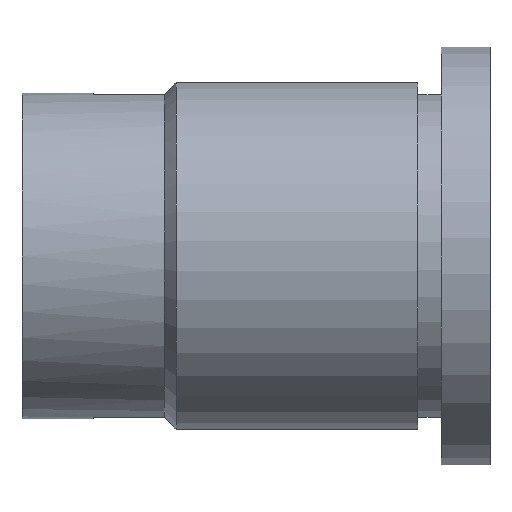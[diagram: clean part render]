
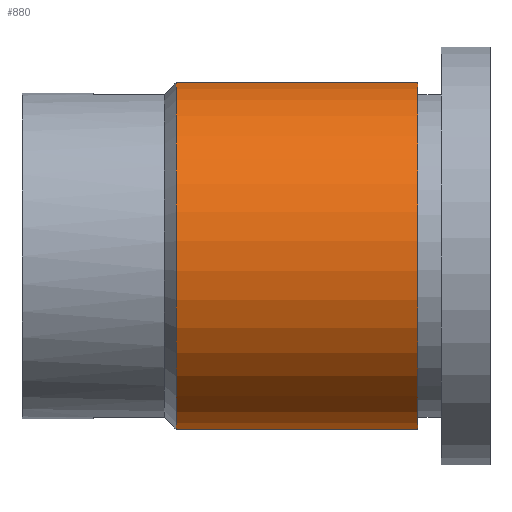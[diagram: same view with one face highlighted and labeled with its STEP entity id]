
A CAD part, front view. The second image highlights one B-rep face of the part: STEP entity #880.
In plain terms, the highlighted cylindrical face has radius 2.95 mm (diameter 5.9 mm), a partial arc.
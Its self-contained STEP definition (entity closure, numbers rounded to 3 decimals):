
#1 = ORIENTED_EDGE ( 'NONE', *, *, #352, .F. ) ;
#2 = DIRECTION ( 'NONE',  ( -1., 0., 0. ) ) ;
#46 = DIRECTION ( 'NONE',  ( 0., 0., 1. ) ) ;
#52 = AXIS2_PLACEMENT_3D ( 'NONE', #724, #317, #890 ) ;
#123 = AXIS2_PLACEMENT_3D ( 'NONE', #950, #535, #46 ) ;
#170 = DIRECTION ( 'NONE',  ( 1., 0., 0. ) ) ;
#259 = FACE_OUTER_BOUND ( 'NONE', #981, .T. ) ;
#268 = DIRECTION ( 'NONE',  ( 0., 0., -1. ) ) ;
#283 = LINE ( 'NONE', #613, #914 ) ;
#300 = VERTEX_POINT ( 'NONE', #711 ) ;
#317 = DIRECTION ( 'NONE',  ( 1., 0., 0. ) ) ;
#333 = ORIENTED_EDGE ( 'NONE', *, *, #806, .F. ) ;
#345 = CARTESIAN_POINT ( 'NONE',  ( -1.22, -0.4, 2.923 ) ) ;
#352 = EDGE_CURVE ( 'NONE', #576, #920, #283, .T. ) ;
#443 = VERTEX_POINT ( 'NONE', #802 ) ;
#458 = EDGE_CURVE ( 'NONE', #576, #300, #830, .T. ) ;
#529 = CIRCLE ( 'NONE', #123, 2.95 ) ;
#535 = DIRECTION ( 'NONE',  ( 1., 0., 0. ) ) ;
#576 = VERTEX_POINT ( 'NONE', #938 ) ;
#582 = DIRECTION ( 'NONE',  ( 1., 0., 0. ) ) ;
#590 = ORIENTED_EDGE ( 'NONE', *, *, #458, .T. ) ;
#595 = CYLINDRICAL_SURFACE ( 'NONE', #921, 2.95 ) ;
#613 = CARTESIAN_POINT ( 'NONE',  ( 11.788, -0.4, 2.923 ) ) ;
#615 = EDGE_CURVE ( 'NONE', #920, #443, #529, .T. ) ;
#711 = CARTESIAN_POINT ( 'NONE',  ( -5.3, -0.4, -2.923 ) ) ;
#724 = CARTESIAN_POINT ( 'NONE',  ( -5.3, 0., 0. ) ) ;
#802 = CARTESIAN_POINT ( 'NONE',  ( -1.22, -0.4, -2.923 ) ) ;
#806 = EDGE_CURVE ( 'NONE', #443, #300, #961, .T. ) ;
#830 = CIRCLE ( 'NONE', #52, 2.95 ) ;
#831 = VECTOR ( 'NONE', #2, 1000. ) ;
#880 = ADVANCED_FACE ( 'NONE', ( #259 ), #595, .T. ) ;
#890 = DIRECTION ( 'NONE',  ( 0., 0., -1. ) ) ;
#914 = VECTOR ( 'NONE', #170, 1000. ) ;
#920 = VERTEX_POINT ( 'NONE', #345 ) ;
#921 = AXIS2_PLACEMENT_3D ( 'NONE', #993, #582, #268 ) ;
#938 = CARTESIAN_POINT ( 'NONE',  ( -5.3, -0.4, 2.923 ) ) ;
#950 = CARTESIAN_POINT ( 'NONE',  ( -1.22, 0., 0. ) ) ;
#961 = LINE ( 'NONE', #974, #831 ) ;
#974 = CARTESIAN_POINT ( 'NONE',  ( 11.788, -0.4, -2.923 ) ) ;
#981 = EDGE_LOOP ( 'NONE', ( #333, #1005, #1, #590 ) ) ;
#993 = CARTESIAN_POINT ( 'NONE',  ( 11.788, 0., 0. ) ) ;
#1005 = ORIENTED_EDGE ( 'NONE', *, *, #615, .F. ) ;
